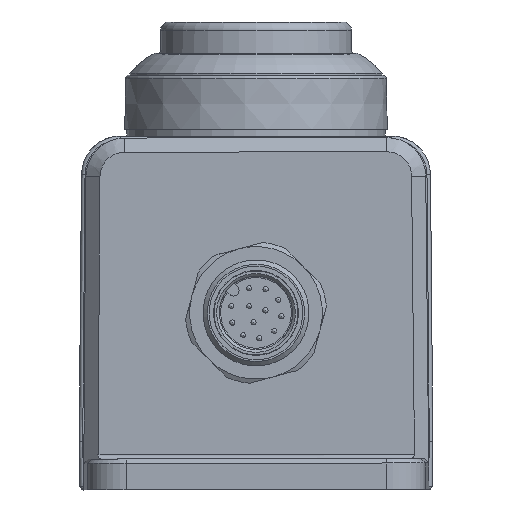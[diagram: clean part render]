
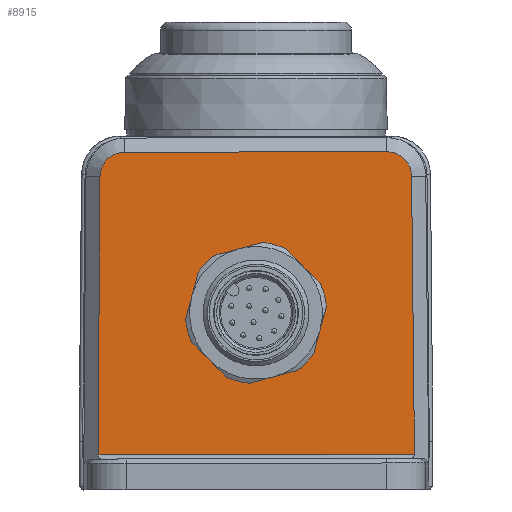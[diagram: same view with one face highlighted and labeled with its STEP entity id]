
A CAD part, front view. The second image highlights one B-rep face of the part: STEP entity #8915.
In plain terms, the highlighted planar face has unit normal (0, -1, 0).
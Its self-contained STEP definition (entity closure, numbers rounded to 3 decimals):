
#500=FACE_BOUND('',#2664,.T.);
#867=LINE('',#17270,#1325);
#899=LINE('',#17352,#1357);
#902=LINE('',#17363,#1360);
#905=LINE('',#17372,#1363);
#1325=VECTOR('',#12256,10.);
#1357=VECTOR('',#12332,10.);
#1360=VECTOR('',#12343,10.);
#1363=VECTOR('',#12354,10.);
#2081=FACE_OUTER_BOUND('',#2663,.T.);
#2663=EDGE_LOOP('',(#7734,#7735,#7736,#7737,#7738,#7739));
#2664=EDGE_LOOP('',(#7740));
#3252=CIRCLE('',#9935,6.05);
#3263=CIRCLE('',#9963,2.8);
#3265=CIRCLE('',#9967,2.8);
#4064=VERTEX_POINT('',#17259);
#4065=VERTEX_POINT('',#17263);
#4068=VERTEX_POINT('',#17268);
#4096=VERTEX_POINT('',#17350);
#4098=VERTEX_POINT('',#17356);
#4100=VERTEX_POINT('',#17361);
#4102=VERTEX_POINT('',#17368);
#5284=EDGE_CURVE('',#4064,#4064,#3252,.T.);
#5288=EDGE_CURVE('',#4068,#4065,#867,.T.);
#5329=EDGE_CURVE('',#4096,#4068,#899,.T.);
#5332=EDGE_CURVE('',#4098,#4096,#3263,.T.);
#5334=EDGE_CURVE('',#4100,#4098,#902,.T.);
#5338=EDGE_CURVE('',#4102,#4100,#3265,.T.);
#5339=EDGE_CURVE('',#4065,#4102,#905,.T.);
#7734=ORIENTED_EDGE('',*,*,#5288,.F.);
#7735=ORIENTED_EDGE('',*,*,#5329,.F.);
#7736=ORIENTED_EDGE('',*,*,#5332,.F.);
#7737=ORIENTED_EDGE('',*,*,#5334,.F.);
#7738=ORIENTED_EDGE('',*,*,#5338,.F.);
#7739=ORIENTED_EDGE('',*,*,#5339,.F.);
#7740=ORIENTED_EDGE('',*,*,#5284,.T.);
#8458=PLANE('',#9984);
#8915=ADVANCED_FACE('',(#2081,#500),#8458,.T.);
#9935=AXIS2_PLACEMENT_3D('',#17261,#12247,#12248);
#9963=AXIS2_PLACEMENT_3D('',#17358,#12338,#12339);
#9967=AXIS2_PLACEMENT_3D('',#17370,#12350,#12351);
#9984=AXIS2_PLACEMENT_3D('',#17413,#12401,#12402);
#12247=DIRECTION('center_axis',(0.,1.,0.));
#12248=DIRECTION('ref_axis',(-0.966,0.,0.259));
#12256=DIRECTION('',(-1.,0.,0.));
#12332=DIRECTION('',(0.009,0.,-1.));
#12338=DIRECTION('center_axis',(0.,1.,0.));
#12339=DIRECTION('ref_axis',(0.704,0.,0.71));
#12343=DIRECTION('',(1.,0.,0.));
#12350=DIRECTION('center_axis',(0.,1.,0.));
#12351=DIRECTION('ref_axis',(-0.704,0.,0.71));
#12354=DIRECTION('',(0.009,0.,1.));
#12401=DIRECTION('center_axis',(0.,-1.,0.));
#12402=DIRECTION('ref_axis',(-1.,0.,0.));
#17259=CARTESIAN_POINT('',(5.844,-7.,-1.566));
#17261=CARTESIAN_POINT('Origin',(0.,-7.,0.));
#17263=CARTESIAN_POINT('',(-17.896,-7.,-16.));
#17268=CARTESIAN_POINT('',(17.896,-7.,-16.));
#17270=CARTESIAN_POINT('',(9.75,-7.,-16.));
#17350=CARTESIAN_POINT('',(17.621,-7.,15.424));
#17352=CARTESIAN_POINT('',(17.828,-7.,-8.27));
#17356=CARTESIAN_POINT('',(14.821,-7.,18.2));
#17358=CARTESIAN_POINT('Origin',(14.821,-7.,15.4));
#17361=CARTESIAN_POINT('',(-14.821,-7.,18.2));
#17363=CARTESIAN_POINT('',(9.592,-7.,18.2));
#17368=CARTESIAN_POINT('',(-17.621,-7.,15.424));
#17370=CARTESIAN_POINT('Origin',(-14.821,-7.,15.4));
#17372=CARTESIAN_POINT('',(-17.67,-7.,9.88));
#17413=CARTESIAN_POINT('Origin',(0.,-7.,-0.18));
